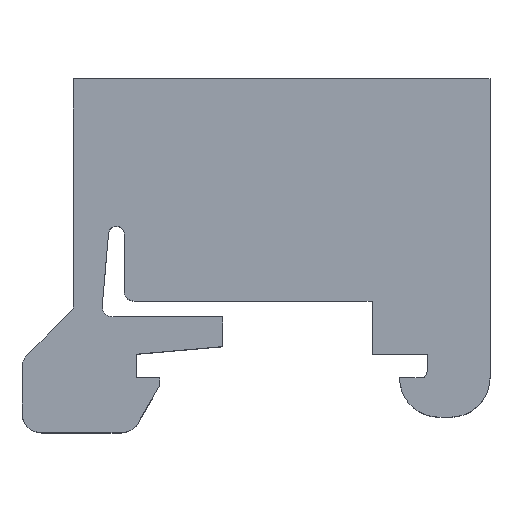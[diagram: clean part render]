
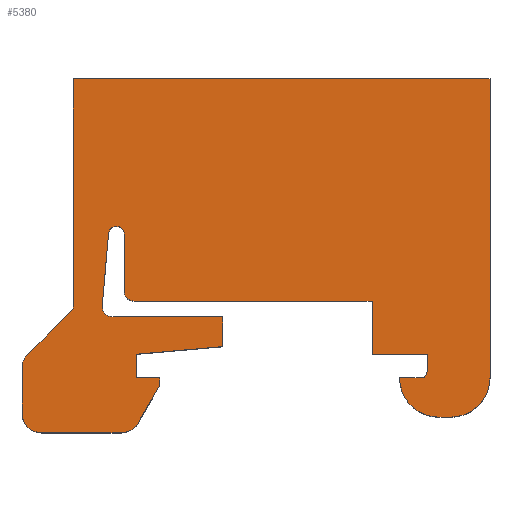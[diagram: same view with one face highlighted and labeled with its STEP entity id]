
A CAD part, top view. The second image highlights one B-rep face of the part: STEP entity #5380.
In plain terms, the highlighted planar face has unit normal (0, 0, 1).
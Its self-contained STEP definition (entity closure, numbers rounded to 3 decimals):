
#2700=CARTESIAN_POINT('',(0.,0.,6.05));
#2710=DIRECTION('',(0.,0.,1.));
#2720=DIRECTION('',(1.,0.,-0.));
#2730=AXIS2_PLACEMENT_3D('',#2700,#2710,#2720);
#2740=PLANE('',#2730);
#2750=CARTESIAN_POINT('',(0.,0.,6.05));
#2760=DIRECTION('',(-1.,0.,0.));
#2770=VECTOR('',#2760,1.);
#2780=LINE('',#2750,#2770);
#2790=CARTESIAN_POINT('',(-23.033,0.,6.05));
#2800=VERTEX_POINT('',#2790);
#2810=CARTESIAN_POINT('',(-44.233,0.,6.05));
#2820=VERTEX_POINT('',#2810);
#2830=EDGE_CURVE('',#2800,#2820,#2780,.T.);
#2840=ORIENTED_EDGE('',*,*,#2830,.T.);
#2850=CARTESIAN_POINT('',(-23.033,0.,6.05));
#2860=DIRECTION('',(0.,-1.,0.));
#2870=VECTOR('',#2860,1.);
#2880=LINE('',#2850,#2870);
#2890=CARTESIAN_POINT('',(-23.033,-15.2,6.05));
#2900=VERTEX_POINT('',#2890);
#2910=EDGE_CURVE('',#2800,#2900,#2880,.T.);
#2920=ORIENTED_EDGE('',*,*,#2910,.F.);
#2930=CARTESIAN_POINT('',(-25.033,-15.2,6.05));
#2940=DIRECTION('',(0.,0.,1.));
#2950=DIRECTION('',(1.,0.,0.));
#2960=AXIS2_PLACEMENT_3D('',#2930,#2940,#2950);
#2970=CIRCLE('',#2960,2.);
#2980=CARTESIAN_POINT('',(-25.033,-17.2,6.05));
#2990=VERTEX_POINT('',#2980);
#3000=EDGE_CURVE('',#2990,#2900,#2970,.T.);
#3010=ORIENTED_EDGE('',*,*,#3000,.T.);
#3020=CARTESIAN_POINT('',(0.,-17.2,6.05));
#3030=DIRECTION('',(-1.,0.,0.));
#3040=VECTOR('',#3030,1.);
#3050=LINE('',#3020,#3040);
#3060=CARTESIAN_POINT('',(-25.633,-17.2,6.05));
#3070=VERTEX_POINT('',#3060);
#3080=EDGE_CURVE('',#2990,#3070,#3050,.T.);
#3090=ORIENTED_EDGE('',*,*,#3080,.F.);
#3100=CARTESIAN_POINT('',(-25.633,-15.2,6.05));
#3110=DIRECTION('',(0.,0.,1.));
#3120=DIRECTION('',(1.,0.,0.));
#3130=AXIS2_PLACEMENT_3D('',#3100,#3110,#3120);
#3140=CIRCLE('',#3130,2.);
#3150=CARTESIAN_POINT('',(-27.633,-15.2,6.05));
#3160=VERTEX_POINT('',#3150);
#3170=EDGE_CURVE('',#3160,#3070,#3140,.T.);
#3180=ORIENTED_EDGE('',*,*,#3170,.T.);
#3190=CARTESIAN_POINT('',(0.,-15.2,6.05));
#3200=DIRECTION('',(1.,0.,-0.));
#3210=VECTOR('',#3200,1.);
#3220=LINE('',#3190,#3210);
#3230=CARTESIAN_POINT('',(-26.533,-15.2,6.05));
#3240=VERTEX_POINT('',#3230);
#3250=EDGE_CURVE('',#3160,#3240,#3220,.T.);
#3260=ORIENTED_EDGE('',*,*,#3250,.F.);
#3270=CARTESIAN_POINT('',(-26.533,-14.9,6.05));
#3280=DIRECTION('',(0.,0.,1.));
#3290=DIRECTION('',(1.,0.,0.));
#3300=AXIS2_PLACEMENT_3D('',#3270,#3280,#3290);
#3310=CIRCLE('',#3300,0.3);
#3320=CARTESIAN_POINT('',(-26.233,-14.9,6.05));
#3330=VERTEX_POINT('',#3320);
#3340=EDGE_CURVE('',#3240,#3330,#3310,.T.);
#3350=ORIENTED_EDGE('',*,*,#3340,.F.);
#3360=CARTESIAN_POINT('',(-26.233,0.,6.05));
#3370=DIRECTION('',(0.,1.,-0.));
#3380=VECTOR('',#3370,1.);
#3390=LINE('',#3360,#3380);
#3400=CARTESIAN_POINT('',(-26.233,-14.,6.05));
#3410=VERTEX_POINT('',#3400);
#3420=EDGE_CURVE('',#3330,#3410,#3390,.T.);
#3430=ORIENTED_EDGE('',*,*,#3420,.F.);
#3440=CARTESIAN_POINT('',(0.,-14.,6.05));
#3450=DIRECTION('',(-1.,0.,0.));
#3460=VECTOR('',#3450,1.);
#3470=LINE('',#3440,#3460);
#3480=CARTESIAN_POINT('',(-29.033,-14.,6.05));
#3490=VERTEX_POINT('',#3480);
#3500=EDGE_CURVE('',#3410,#3490,#3470,.T.);
#3510=ORIENTED_EDGE('',*,*,#3500,.F.);
#3520=CARTESIAN_POINT('',(-29.033,0.,6.05));
#3530=DIRECTION('',(0.,1.,-0.));
#3540=VECTOR('',#3530,1.);
#3550=LINE('',#3520,#3540);
#3560=CARTESIAN_POINT('',(-29.033,-11.3,6.05));
#3570=VERTEX_POINT('',#3560);
#3580=EDGE_CURVE('',#3490,#3570,#3550,.T.);
#3590=ORIENTED_EDGE('',*,*,#3580,.F.);
#3600=CARTESIAN_POINT('',(0.,-11.3,6.05));
#3610=DIRECTION('',(-1.,0.,0.));
#3620=VECTOR('',#3610,1.);
#3630=LINE('',#3600,#3620);
#3640=CARTESIAN_POINT('',(-41.133,-11.3,6.05));
#3650=VERTEX_POINT('',#3640);
#3660=EDGE_CURVE('',#3570,#3650,#3630,.T.);
#3670=ORIENTED_EDGE('',*,*,#3660,.F.);
#3680=CARTESIAN_POINT('',(-41.133,-10.8,6.05));
#3690=DIRECTION('',(0.,0.,1.));
#3700=DIRECTION('',(1.,0.,0.));
#3710=AXIS2_PLACEMENT_3D('',#3680,#3690,#3700);
#3720=CIRCLE('',#3710,0.5);
#3730=CARTESIAN_POINT('',(-41.633,-10.8,6.05));
#3740=VERTEX_POINT('',#3730);
#3750=EDGE_CURVE('',#3740,#3650,#3720,.T.);
#3760=ORIENTED_EDGE('',*,*,#3750,.T.);
#3770=CARTESIAN_POINT('',(-41.633,0.,6.05));
#3780=DIRECTION('',(0.,1.,-0.));
#3790=VECTOR('',#3780,1.);
#3800=LINE('',#3770,#3790);
#3810=CARTESIAN_POINT('',(-41.633,-7.9,6.05));
#3820=VERTEX_POINT('',#3810);
#3830=EDGE_CURVE('',#3740,#3820,#3800,.T.);
#3840=ORIENTED_EDGE('',*,*,#3830,.F.);
#3850=CARTESIAN_POINT('',(-42.033,-7.9,6.05));
#3860=DIRECTION('',(0.,0.,1.));
#3870=DIRECTION('',(1.,0.,0.));
#3880=AXIS2_PLACEMENT_3D('',#3850,#3860,#3870);
#3890=CIRCLE('',#3880,0.4);
#3900=CARTESIAN_POINT('',(-42.431,-7.865,6.05));
#3910=VERTEX_POINT('',#3900);
#3920=EDGE_CURVE('',#3820,#3910,#3890,.T.);
#3930=ORIENTED_EDGE('',*,*,#3920,.F.);
#3940=CARTESIAN_POINT('',(-41.743,0.,6.05));
#3950=DIRECTION('',(-0.087,-0.996,0.));
#3960=VECTOR('',#3950,1.);
#3970=LINE('',#3940,#3960);
#3980=CARTESIAN_POINT('',(-42.754,-11.556,6.05));
#3990=VERTEX_POINT('',#3980);
#4000=EDGE_CURVE('',#3910,#3990,#3970,.T.);
#4010=ORIENTED_EDGE('',*,*,#4000,.F.);
#4020=CARTESIAN_POINT('',(-42.256,-11.6,6.05));
#4030=DIRECTION('',(0.,0.,1.));
#4040=DIRECTION('',(1.,0.,0.));
#4050=AXIS2_PLACEMENT_3D('',#4020,#4030,#4040);
#4060=CIRCLE('',#4050,0.5);
#4070=CARTESIAN_POINT('',(-42.756,-11.6,6.05));
#4080=VERTEX_POINT('',#4070);
#4090=EDGE_CURVE('',#3990,#4080,#4060,.T.);
#4100=ORIENTED_EDGE('',*,*,#4090,.F.);
#4110=CARTESIAN_POINT('',(-42.256,-12.1,6.05));
#4120=VERTEX_POINT('',#4110);
#4130=EDGE_CURVE('',#4080,#4120,#4060,.T.);
#4140=ORIENTED_EDGE('',*,*,#4130,.F.);
#4150=CARTESIAN_POINT('',(0.,-12.1,6.05));
#4160=DIRECTION('',(1.,0.,-0.));
#4170=VECTOR('',#4160,1.);
#4180=LINE('',#4150,#4170);
#4190=CARTESIAN_POINT('',(-36.633,-12.1,6.05));
#4200=VERTEX_POINT('',#4190);
#4210=EDGE_CURVE('',#4120,#4200,#4180,.T.);
#4220=ORIENTED_EDGE('',*,*,#4210,.F.);
#4230=CARTESIAN_POINT('',(-36.633,0.,6.05));
#4240=DIRECTION('',(0.,-1.,0.));
#4250=VECTOR('',#4240,1.);
#4260=LINE('',#4230,#4250);
#4270=CARTESIAN_POINT('',(-36.633,-13.615,6.05));
#4280=VERTEX_POINT('',#4270);
#4290=EDGE_CURVE('',#4200,#4280,#4260,.T.);
#4300=ORIENTED_EDGE('',*,*,#4290,.F.);
#4310=CARTESIAN_POINT('',(0.,-10.41,6.05));
#4320=DIRECTION('',(-0.996,-0.087,0.));
#4330=VECTOR('',#4320,1.);
#4340=LINE('',#4310,#4330);
#4350=CARTESIAN_POINT('',(-41.033,-14.,6.05));
#4360=VERTEX_POINT('',#4350);
#4370=EDGE_CURVE('',#4280,#4360,#4340,.T.);
#4380=ORIENTED_EDGE('',*,*,#4370,.F.);
#4390=CARTESIAN_POINT('',(-41.033,0.,6.05));
#4400=DIRECTION('',(0.,-1.,0.));
#4410=VECTOR('',#4400,1.);
#4420=LINE('',#4390,#4410);
#4430=CARTESIAN_POINT('',(-41.033,-15.2,6.05));
#4440=VERTEX_POINT('',#4430);
#4450=EDGE_CURVE('',#4360,#4440,#4420,.T.);
#4460=ORIENTED_EDGE('',*,*,#4450,.F.);
#4470=CARTESIAN_POINT('',(0.,-15.2,6.05));
#4480=DIRECTION('',(1.,0.,-0.));
#4490=VECTOR('',#4480,1.);
#4500=LINE('',#4470,#4490);
#4510=CARTESIAN_POINT('',(-39.833,-15.2,6.05));
#4520=VERTEX_POINT('',#4510);
#4530=EDGE_CURVE('',#4440,#4520,#4500,.T.);
#4540=ORIENTED_EDGE('',*,*,#4530,.F.);
#4550=CARTESIAN_POINT('',(-39.833,0.,6.05));
#4560=DIRECTION('',(0.,-1.,0.));
#4570=VECTOR('',#4560,1.);
#4580=LINE('',#4550,#4570);
#4590=CARTESIAN_POINT('',(-39.833,-15.6,6.05));
#4600=VERTEX_POINT('',#4590);
#4610=EDGE_CURVE('',#4520,#4600,#4580,.T.);
#4620=ORIENTED_EDGE('',*,*,#4610,.F.);
#4630=CARTESIAN_POINT('',(-30.826,0.,6.05));
#4640=DIRECTION('',(-0.5,-0.866,0.));
#4650=VECTOR('',#4640,1.);
#4660=LINE('',#4630,#4650);
#4670=CARTESIAN_POINT('',(-40.93,-17.5,6.05));
#4680=VERTEX_POINT('',#4670);
#4690=EDGE_CURVE('',#4600,#4680,#4660,.T.);
#4700=ORIENTED_EDGE('',*,*,#4690,.F.);
#4710=CARTESIAN_POINT('',(-41.796,-17.,6.05));
#4720=DIRECTION('',(0.,0.,1.));
#4730=DIRECTION('',(1.,0.,0.));
#4740=AXIS2_PLACEMENT_3D('',#4710,#4720,#4730);
#4750=CIRCLE('',#4740,1.);
#4760=CARTESIAN_POINT('',(-41.796,-18.,6.05));
#4770=VERTEX_POINT('',#4760);
#4780=EDGE_CURVE('',#4770,#4680,#4750,.T.);
#4790=ORIENTED_EDGE('',*,*,#4780,.T.);
#4800=CARTESIAN_POINT('',(0.,-18.,6.05));
#4810=DIRECTION('',(-1.,0.,0.));
#4820=VECTOR('',#4810,1.);
#4830=LINE('',#4800,#4820);
#4840=CARTESIAN_POINT('',(-45.833,-18.,6.05));
#4850=VERTEX_POINT('',#4840);
#4860=EDGE_CURVE('',#4770,#4850,#4830,.T.);
#4870=ORIENTED_EDGE('',*,*,#4860,.F.);
#4880=CARTESIAN_POINT('',(-45.833,-17.,6.05));
#4890=DIRECTION('',(0.,0.,1.));
#4900=DIRECTION('',(1.,0.,0.));
#4910=AXIS2_PLACEMENT_3D('',#4880,#4890,#4900);
#4920=CIRCLE('',#4910,1.);
#4930=CARTESIAN_POINT('',(-46.833,-17.,6.05));
#4940=VERTEX_POINT('',#4930);
#4950=EDGE_CURVE('',#4940,#4850,#4920,.T.);
#4960=ORIENTED_EDGE('',*,*,#4950,.T.);
#4970=CARTESIAN_POINT('',(-46.833,0.,6.05));
#4980=DIRECTION('',(0.,1.,-0.));
#4990=VECTOR('',#4980,1.);
#5000=LINE('',#4970,#4990);
#5010=CARTESIAN_POINT('',(-46.833,-14.714,6.05));
#5020=VERTEX_POINT('',#5010);
#5030=EDGE_CURVE('',#4940,#5020,#5000,.T.);
#5040=ORIENTED_EDGE('',*,*,#5030,.F.);
#5050=CARTESIAN_POINT('',(-45.833,-14.714,6.05));
#5060=DIRECTION('',(0.,0.,1.));
#5070=DIRECTION('',(1.,0.,0.));
#5080=AXIS2_PLACEMENT_3D('',#5050,#5060,#5070);
#5090=CIRCLE('',#5080,1.);
#5100=CARTESIAN_POINT('',(-46.54,-14.007,6.05));
#5110=VERTEX_POINT('',#5100);
#5120=EDGE_CURVE('',#5110,#5020,#5090,.T.);
#5130=ORIENTED_EDGE('',*,*,#5120,.T.);
#5140=CARTESIAN_POINT('',(-32.533,0.,6.05));
#5150=DIRECTION('',(0.707,0.707,0.));
#5160=VECTOR('',#5150,1.);
#5170=LINE('',#5140,#5160);
#5180=CARTESIAN_POINT('',(-44.207,-11.674,6.05));
#5190=VERTEX_POINT('',#5180);
#5200=EDGE_CURVE('',#5110,#5190,#5170,.T.);
#5210=ORIENTED_EDGE('',*,*,#5200,.F.);
#5220=CARTESIAN_POINT('',(-47.335,0.,6.05));
#5230=DIRECTION('',(-0.259,0.966,0.));
#5240=VECTOR('',#5230,1.);
#5250=LINE('',#5220,#5240);
#5260=CARTESIAN_POINT('',(-44.233,-11.575,6.05));
#5270=VERTEX_POINT('',#5260);
#5280=EDGE_CURVE('',#5190,#5270,#5250,.T.);
#5290=ORIENTED_EDGE('',*,*,#5280,.F.);
#5300=CARTESIAN_POINT('',(-44.233,0.,6.05));
#5310=DIRECTION('',(-0.,-1.,0.));
#5320=VECTOR('',#5310,1.);
#5330=LINE('',#5300,#5320);
#5340=EDGE_CURVE('',#2820,#5270,#5330,.T.);
#5350=ORIENTED_EDGE('',*,*,#5340,.T.);
#5360=EDGE_LOOP('',(#5350,#5290,#5210,#5130,#5040,#4960,#4870,#4790,
#4700,#4620,#4540,#4460,#4380,#4300,#4220,#4140,#4100,#4010,#3930,#3840,
#3760,#3670,#3590,#3510,#3430,#3350,#3260,#3180,#3090,#3010,#2920,#2840)
);
#5370=FACE_OUTER_BOUND('',#5360,.T.);
#5380=ADVANCED_FACE('',(#5370),#2740,.T.);
